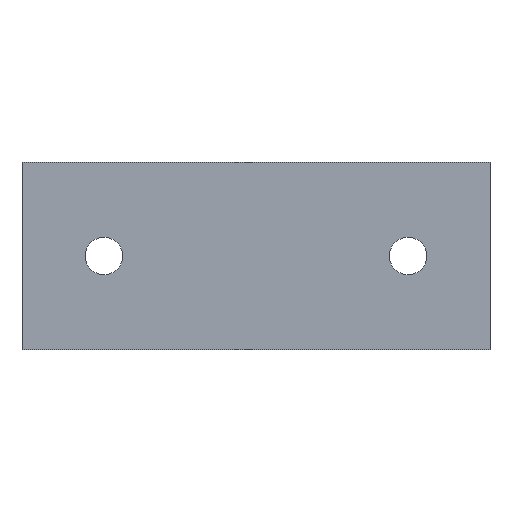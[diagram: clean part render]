
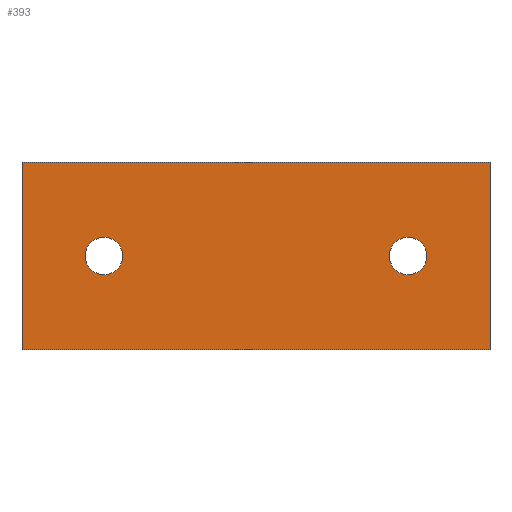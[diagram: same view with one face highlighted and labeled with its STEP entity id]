
A CAD part, top view. The second image highlights one B-rep face of the part: STEP entity #393.
In plain terms, the highlighted planar face has unit normal (0, 0, 1).
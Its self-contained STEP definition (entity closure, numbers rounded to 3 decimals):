
#186=CIRCLE('',#378,8.);
#187=CIRCLE('',#379,8.);
#202=ORIENTED_EDGE('',*,*,#258,.F.);
#203=ORIENTED_EDGE('',*,*,#268,.T.);
#204=ORIENTED_EDGE('',*,*,#265,.T.);
#205=ORIENTED_EDGE('',*,*,#269,.T.);
#206=ORIENTED_EDGE('',*,*,#270,.F.);
#207=ORIENTED_EDGE('',*,*,#271,.F.);
#222=VECTOR('',#304,1.);
#227=VECTOR('',#317,1.);
#230=VECTOR('',#322,1.);
#231=VECTOR('',#323,1.);
#234=LINE('',#343,#222);
#239=LINE('',#358,#227);
#242=LINE('',#362,#230);
#243=LINE('',#363,#231);
#246=VERTEX_POINT('',#340);
#247=VERTEX_POINT('',#342);
#252=VERTEX_POINT('',#356);
#253=VERTEX_POINT('',#357);
#254=VERTEX_POINT('',#364);
#255=VERTEX_POINT('',#366);
#258=EDGE_CURVE('',#246,#247,#234,.T.);
#265=EDGE_CURVE('',#252,#253,#239,.T.);
#268=EDGE_CURVE('',#246,#252,#242,.T.);
#269=EDGE_CURVE('',#253,#247,#243,.T.);
#270=EDGE_CURVE('',#254,#254,#186,.T.);
#271=EDGE_CURVE('',#255,#255,#187,.T.);
#277=EDGE_LOOP('',(#202,#203,#204,#205));
#278=EDGE_LOOP('',(#206));
#279=EDGE_LOOP('',(#207));
#291=FACE_BOUND('',#277,.T.);
#292=FACE_BOUND('',#278,.T.);
#293=FACE_BOUND('',#279,.T.);
#304=DIRECTION('',(200.,0.,0.));
#317=DIRECTION('',(200.,0.,0.));
#320=DIRECTION('',(0.,0.,1.));
#321=DIRECTION('',(0.,-1.,0.));
#322=DIRECTION('',(0.,-80.,0.));
#323=DIRECTION('',(0.,80.,0.));
#324=DIRECTION('',(0.,0.,1.));
#325=DIRECTION('',(0.,-8.,0.));
#326=DIRECTION('',(0.,0.,1.));
#327=DIRECTION('',(0.,-8.,0.));
#340=CARTESIAN_POINT('',(-200.,40.,5.));
#342=CARTESIAN_POINT('',(0.,40.,5.));
#343=CARTESIAN_POINT('',(-200.,40.,5.));
#356=CARTESIAN_POINT('',(-200.,-40.,5.));
#357=CARTESIAN_POINT('',(0.,-40.,5.));
#358=CARTESIAN_POINT('',(-200.,-40.,5.));
#361=CARTESIAN_POINT('',(0.,40.,5.));
#362=CARTESIAN_POINT('',(-200.,40.,5.));
#363=CARTESIAN_POINT('',(0.,-40.,5.));
#364=CARTESIAN_POINT('',(-35.,-8.,5.));
#365=CARTESIAN_POINT('',(-35.,0.,5.));
#366=CARTESIAN_POINT('',(-165.,-8.,5.));
#367=CARTESIAN_POINT('',(-165.,0.,5.));
#377=AXIS2_PLACEMENT_3D('',#361,#320,#321);
#378=AXIS2_PLACEMENT_3D('',#365,#324,#325);
#379=AXIS2_PLACEMENT_3D('',#367,#326,#327);
#387=PLANE('',#377);
#393=ADVANCED_FACE('',(#291,#292,#293),#387,.T.);
